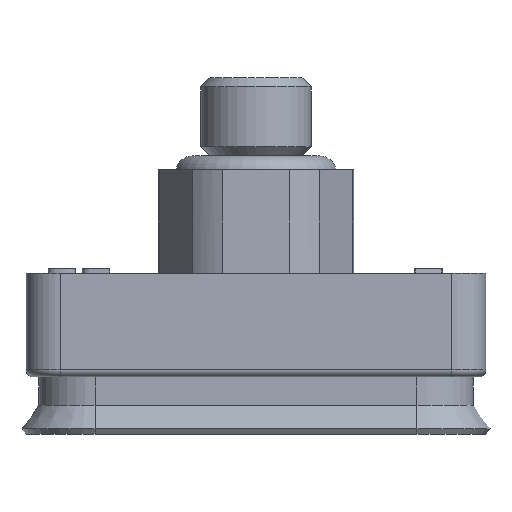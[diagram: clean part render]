
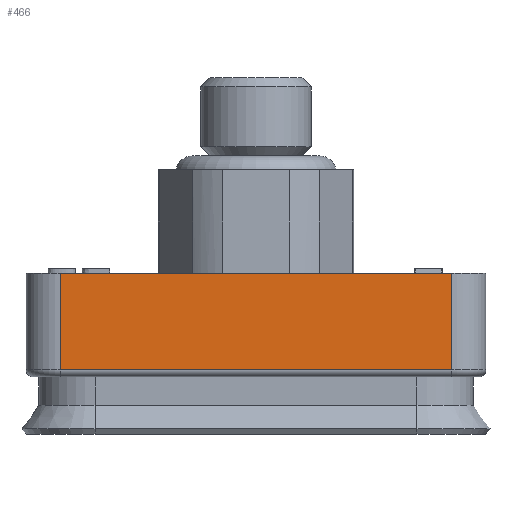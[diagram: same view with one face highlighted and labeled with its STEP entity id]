
A CAD part, front view. The second image highlights one B-rep face of the part: STEP entity #466.
In plain terms, the highlighted planar face has unit normal (0, -1, 0).
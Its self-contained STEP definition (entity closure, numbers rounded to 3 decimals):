
#466 = ADVANCED_FACE( '', ( #973 ), #974, .T. );
#973 = FACE_OUTER_BOUND( '', #1562, .T. );
#974 = PLANE( '', #1563 );
#1562 = EDGE_LOOP( '', ( #3110, #3111, #3112, #3113, #3114, #3115 ) );
#1563 = AXIS2_PLACEMENT_3D( '', #3116, #3117, #3118 );
#3110 = ORIENTED_EDGE( '', *, *, #3659, .F. );
#3111 = ORIENTED_EDGE( '', *, *, #3487, .T. );
#3112 = ORIENTED_EDGE( '', *, *, #3744, .T. );
#3113 = ORIENTED_EDGE( '', *, *, #3692, .F. );
#3114 = ORIENTED_EDGE( '', *, *, #3653, .F. );
#3115 = ORIENTED_EDGE( '', *, *, #3718, .F. );
#3116 = CARTESIAN_POINT( '', ( -8.5, -3.5, -6. ) );
#3117 = DIRECTION( '', ( 0., -1., 0. ) );
#3118 = DIRECTION( '', ( 0., 0., -1. ) );
#3487 = EDGE_CURVE( '', #4009, #4151, #4153, .T. );
#3653 = EDGE_CURVE( '', #4397, #3867, #4400, .T. );
#3659 = EDGE_CURVE( '', #4009, #4407, #4408, .T. );
#3692 = EDGE_CURVE( '', #3867, #4454, #4455, .T. );
#3718 = EDGE_CURVE( '', #4407, #4397, #4491, .T. );
#3744 = EDGE_CURVE( '', #4151, #4454, #4520, .T. );
#3867 = VERTEX_POINT( '', #4758 );
#4009 = VERTEX_POINT( '', #4992 );
#4151 = VERTEX_POINT( '', #5283 );
#4153 = LINE( '', #5285, #5286 );
#4397 = VERTEX_POINT( '', #5822 );
#4400 = LINE( '', #5825, #5826 );
#4407 = VERTEX_POINT( '', #5835 );
#4408 = LINE( '', #5836, #5837 );
#4454 = VERTEX_POINT( '', #5915 );
#4455 = LINE( '', #5916, #5917 );
#4491 = LINE( '', #6068, #6069 );
#4520 = LINE( '', #6130, #6131 );
#4758 = CARTESIAN_POINT( '', ( 2.411, -3.5, -1.5 ) );
#4992 = CARTESIAN_POINT( '', ( -8.5, -3.5, -5.7 ) );
#5283 = CARTESIAN_POINT( '', ( 8.5, -3.5, -5.7 ) );
#5285 = CARTESIAN_POINT( '', ( 8.5, -3.5, -5.7 ) );
#5286 = VECTOR( '', #6456, 1000. );
#5822 = CARTESIAN_POINT( '', ( -2.411, -3.5, -1.5 ) );
#5825 = CARTESIAN_POINT( '', ( -8.5, -3.5, -1.5 ) );
#5826 = VECTOR( '', #6570, 1000. );
#5835 = CARTESIAN_POINT( '', ( -8.5, -3.5, -1.5 ) );
#5836 = CARTESIAN_POINT( '', ( -8.5, -3.5, -6. ) );
#5837 = VECTOR( '', #6576, 1000. );
#5915 = CARTESIAN_POINT( '', ( 8.5, -3.5, -1.5 ) );
#5916 = CARTESIAN_POINT( '', ( -8.5, -3.5, -1.5 ) );
#5917 = VECTOR( '', #6585, 1000. );
#6068 = CARTESIAN_POINT( '', ( -8.5, -3.5, -1.5 ) );
#6069 = VECTOR( '', #6602, 1000. );
#6130 = CARTESIAN_POINT( '', ( 8.5, -3.5, -6. ) );
#6131 = VECTOR( '', #6624, 1000. );
#6456 = DIRECTION( '', ( 1., 0., 0. ) );
#6570 = DIRECTION( '', ( 1., 0., 0. ) );
#6576 = DIRECTION( '', ( 0., 0., 1. ) );
#6585 = DIRECTION( '', ( 1., 0., 0. ) );
#6602 = DIRECTION( '', ( 1., 0., 0. ) );
#6624 = DIRECTION( '', ( 0., 0., 1. ) );
